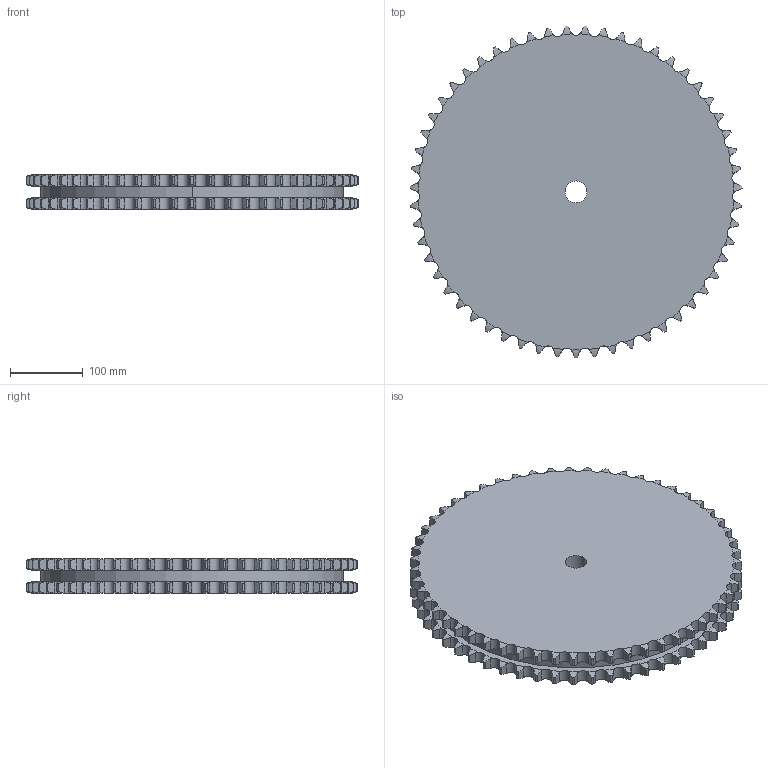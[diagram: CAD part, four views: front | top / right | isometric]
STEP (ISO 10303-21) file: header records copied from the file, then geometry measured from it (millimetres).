
FILE_DESCRIPTION((''),'2;1');
FILE_NAME('500-502-0055_PRT','2021-02-12T',('Brieden'),('Brieden'),'PRO/ENGINEER BY PARAMETRIC TECHNOLOGY CORPORATION, 2010160','PRO/ENGINEER BY PARAMETRIC TECHNOLOGY CORPORATION, 2010160','');
FILE_SCHEMA(('AUTOMOTIVE_DESIGN { 1 0 10303 214 1 1 1 1 }'));
Length unit declared in the file: millimetre
Products named in the file (1): 500-502-0055_PRT
Bounding box: 455.07 x 454.89 x 47.7 mm (x, y, z)
Volume: 6928548.3 mm3; surface area: 423113.7 mm2
Topology: 1 solids, 1 shells, 668 faces, 1992 edges, 1328 vertices
Faces by surface type: cylinder 444, torus 220, plane 4
Entity records: 33462 total; most frequent: CARTESIAN_POINT 10539, ORIENTED_EDGE 3984, DIRECTION 3116, PRESENTATION_STYLE_ASSIGNMENT 1993, STYLED_ITEM 1993, CURVE_STYLE 1992, EDGE_CURVE 1992, AXIS2_PLACEMENT_3D 1336
